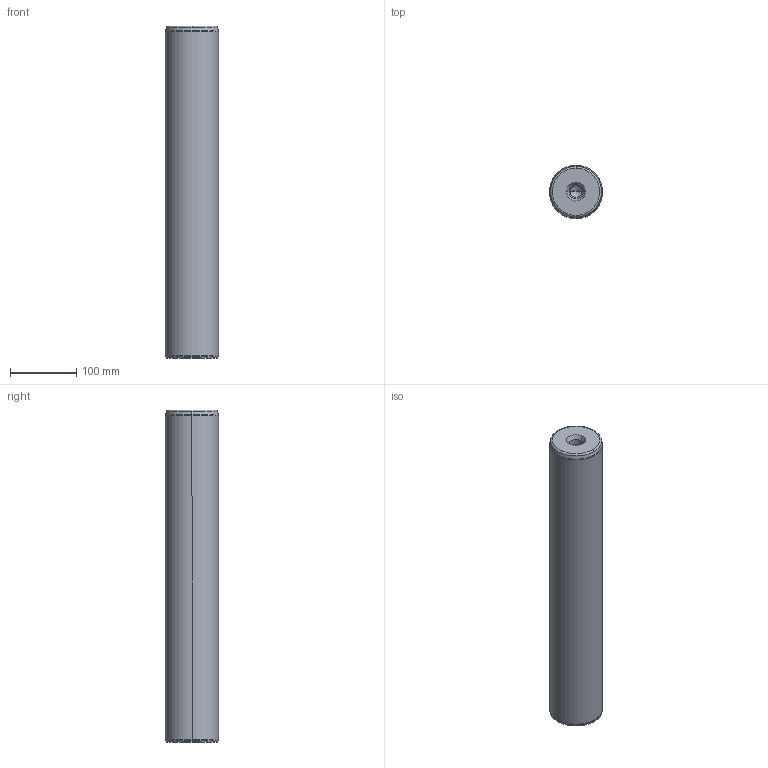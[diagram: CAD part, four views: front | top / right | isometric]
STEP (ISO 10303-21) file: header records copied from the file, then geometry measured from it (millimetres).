
FILE_DESCRIPTION((''),'2;1');
FILE_NAME('P10_080_500.stp','2008-12-23T15:09:31',(''),(''),'Mechanical Desktop 2009','Mechanical Desktop 2009',', , ');
FILE_SCHEMA(('CONFIG_CONTROL_DESIGN'));
Length unit declared in the file: millimetre
Products named in the file (5): Product; ProductAA; blmdl1; ProductA; blmdl1A
Assembly tree (2 placements, depth 3):
  Product
    ProductAA
      blmdl1
  ProductA
  blmdl1A
Bounding box: 80 x 80 x 500 mm (x, y, z)
Volume: 2494792.9 mm3; surface area: 137738.7 mm2
Topology: 1 solids, 1 shells, 26 faces, 66 edges, 41 vertices
Faces by surface type: cone 10, torus 8, cylinder 6, plane 2
Entity records: 1012 total; most frequent: DIRECTION 170, CARTESIAN_POINT 134, ORIENTED_EDGE 128, AXIS2_PLACEMENT_3D 77, EDGE_CURVE 64, CIRCLE 48, VERTEX_POINT 41, EDGE_LOOP 27
